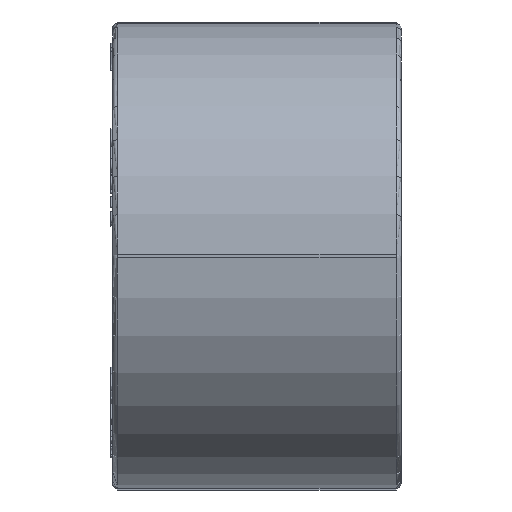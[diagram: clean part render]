
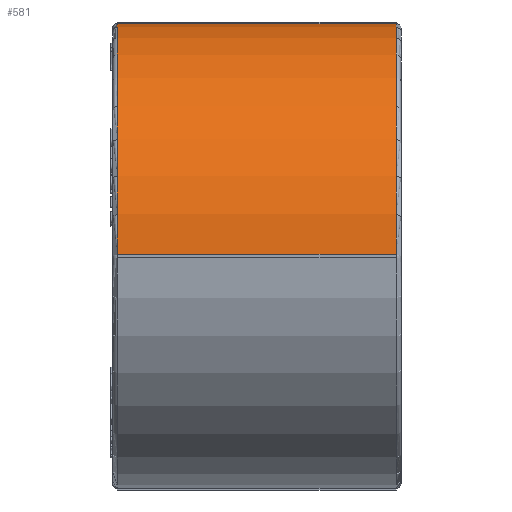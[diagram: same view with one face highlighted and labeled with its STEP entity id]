
A CAD part, left-side view. The second image highlights one B-rep face of the part: STEP entity #581.
In plain terms, the highlighted cylindrical face has radius 72.5 mm (diameter 145 mm), a partial arc.
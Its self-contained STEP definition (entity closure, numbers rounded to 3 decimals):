
#581=ADVANCED_FACE('',(#4060),#4062,.T.);
#4060=FACE_BOUND('',#4061,.T.);
#4061=EDGE_LOOP('',(#8229,#8230,#8231,#8232));
#4062=CYLINDRICAL_SURFACE('',#4063,72.5);
#4063=AXIS2_PLACEMENT_3D('',#4064,#4065,#4066);
#4064=CARTESIAN_POINT('',(0.,-45.,0.));
#4065=DIRECTION('',(0.,1.,0.));
#4066=DIRECTION('',(-1.,0.,0.));
#8229=ORIENTED_EDGE('',*,*,#9845,.F.);
#8230=ORIENTED_EDGE('',*,*,#9846,.T.);
#8231=ORIENTED_EDGE('',*,*,#9847,.F.);
#8232=ORIENTED_EDGE('',*,*,#9841,.F.);
#9841=EDGE_CURVE('',#12386,#12388,#12389,.T.);
#9845=EDGE_CURVE('',#12395,#12386,#12396,.T.);
#9846=EDGE_CURVE('',#12395,#12397,#12398,.T.);
#9847=EDGE_CURVE('',#12388,#12397,#12399,.F.);
#12386=VERTEX_POINT('',#17953);
#12388=VERTEX_POINT('',#17958);
#12389=CIRCLE('',#17959,72.5);
#12395=VERTEX_POINT('',#17977);
#12396=LINE('',#17978,#17979);
#12397=VERTEX_POINT('',#17981);
#12398=CIRCLE('',#17982,72.5);
#12399=LINE('',#17986,#17987);
#17953=CARTESIAN_POINT('',(-72.498,43.5,0.5));
#17958=CARTESIAN_POINT('',(-0.5,43.5,72.498));
#17959=AXIS2_PLACEMENT_3D('',#17960,#17961,#17962);
#17960=CARTESIAN_POINT('',(0.,43.5,0.));
#17961=DIRECTION('',(0.,1.,0.));
#17962=DIRECTION('',(-1.,0.,0.007));
#17977=CARTESIAN_POINT('',(-72.498,-43.5,0.5));
#17978=CARTESIAN_POINT('',(-72.498,-43.5,0.5));
#17979=VECTOR('',#17980,1.);
#17980=DIRECTION('',(0.,1.,0.));
#17981=CARTESIAN_POINT('',(-0.5,-43.5,72.498));
#17982=AXIS2_PLACEMENT_3D('',#17983,#17984,#17985);
#17983=CARTESIAN_POINT('',(0.,-43.5,0.));
#17984=DIRECTION('',(0.,1.,0.));
#17985=DIRECTION('',(-1.,0.,0.007));
#17986=CARTESIAN_POINT('',(-0.5,-43.5,72.498));
#17987=VECTOR('',#17988,1.);
#17988=DIRECTION('',(0.,1.,0.));
